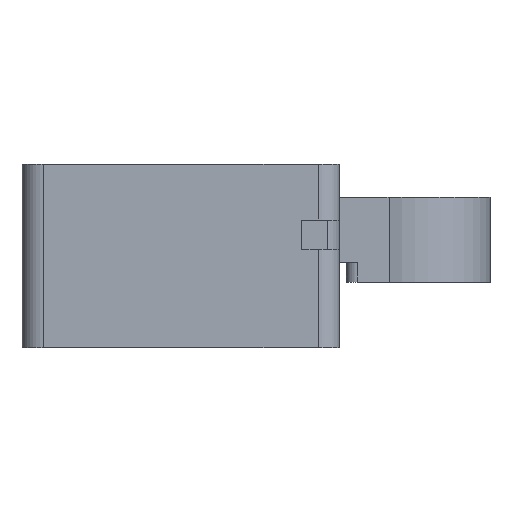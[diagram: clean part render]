
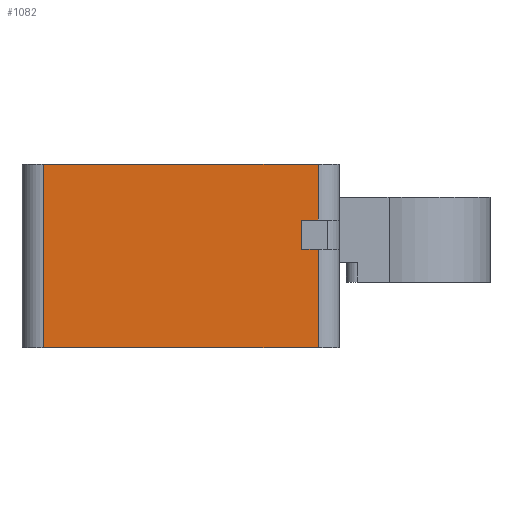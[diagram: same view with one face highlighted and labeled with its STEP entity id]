
A CAD part, front view. The second image highlights one B-rep face of the part: STEP entity #1082.
In plain terms, the highlighted planar face has unit normal (0, -1, 0).
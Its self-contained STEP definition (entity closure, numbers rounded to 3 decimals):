
#115=FACE_OUTER_BOUND('',#171,.T.);
#171=EDGE_LOOP('',(#829,#830,#831,#832,#833,#834,#835,#836));
#212=LINE('',#1560,#324);
#223=LINE('',#1664,#335);
#226=LINE('',#1676,#338);
#264=LINE('',#1901,#376);
#265=LINE('',#1904,#377);
#266=LINE('',#1906,#378);
#267=LINE('',#1908,#379);
#268=LINE('',#1909,#380);
#324=VECTOR('',#1242,1.);
#335=VECTOR('',#1273,1.);
#338=VECTOR('',#1284,1.);
#376=VECTOR('',#1374,1.);
#377=VECTOR('',#1377,1.);
#378=VECTOR('',#1378,1.);
#379=VECTOR('',#1379,1.);
#380=VECTOR('',#1380,1.);
#436=VERTEX_POINT('',#1557);
#437=VERTEX_POINT('',#1559);
#456=VERTEX_POINT('',#1662);
#461=VERTEX_POINT('',#1674);
#490=VERTEX_POINT('',#1899);
#491=VERTEX_POINT('',#1903);
#492=VERTEX_POINT('',#1905);
#493=VERTEX_POINT('',#1907);
#545=EDGE_CURVE('',#436,#437,#212,.T.);
#566=EDGE_CURVE('',#456,#436,#223,.T.);
#572=EDGE_CURVE('',#456,#461,#226,.T.);
#620=EDGE_CURVE('',#490,#437,#264,.T.);
#621=EDGE_CURVE('',#461,#491,#265,.T.);
#622=EDGE_CURVE('',#492,#491,#266,.T.);
#623=EDGE_CURVE('',#493,#492,#267,.T.);
#624=EDGE_CURVE('',#493,#490,#268,.T.);
#829=ORIENTED_EDGE('',*,*,#572,.T.);
#830=ORIENTED_EDGE('',*,*,#621,.T.);
#831=ORIENTED_EDGE('',*,*,#622,.F.);
#832=ORIENTED_EDGE('',*,*,#623,.F.);
#833=ORIENTED_EDGE('',*,*,#624,.T.);
#834=ORIENTED_EDGE('',*,*,#620,.T.);
#835=ORIENTED_EDGE('',*,*,#545,.F.);
#836=ORIENTED_EDGE('',*,*,#566,.F.);
#1039=PLANE('',#1172);
#1082=ADVANCED_FACE('',(#115),#1039,.F.);
#1172=AXIS2_PLACEMENT_3D('',#1902,#1375,#1376);
#1242=DIRECTION('',(1.,0.,0.));
#1273=DIRECTION('',(0.,0.,1.));
#1284=DIRECTION('',(1.,0.,0.));
#1374=DIRECTION('',(0.,0.,1.));
#1375=DIRECTION('center_axis',(0.,1.,0.));
#1376=DIRECTION('ref_axis',(0.,0.,1.));
#1377=DIRECTION('',(0.,0.,1.));
#1378=DIRECTION('',(1.,0.,0.));
#1379=DIRECTION('',(0.,0.,-1.));
#1380=DIRECTION('',(1.,0.,0.));
#1557=CARTESIAN_POINT('',(22.15,25.38,-4.8));
#1559=CARTESIAN_POINT('',(30.55,25.38,-4.8));
#1560=CARTESIAN_POINT('',(21.5,25.38,-4.8));
#1662=CARTESIAN_POINT('',(22.15,25.38,-10.4));
#1664=CARTESIAN_POINT('',(22.15,25.38,-10.4));
#1674=CARTESIAN_POINT('',(30.55,25.38,-10.4));
#1676=CARTESIAN_POINT('',(21.5,25.38,-10.4));
#1899=CARTESIAN_POINT('',(30.55,25.38,-6.5));
#1901=CARTESIAN_POINT('',(30.55,25.38,-10.4));
#1902=CARTESIAN_POINT('Origin',(21.5,25.38,-10.4));
#1903=CARTESIAN_POINT('',(30.55,25.38,-7.4));
#1904=CARTESIAN_POINT('',(30.55,25.38,-10.4));
#1905=CARTESIAN_POINT('',(30.05,25.38,-7.4));
#1906=CARTESIAN_POINT('',(25.775,25.38,-7.4));
#1907=CARTESIAN_POINT('',(30.05,25.38,-6.5));
#1908=CARTESIAN_POINT('',(30.05,25.38,-8.9));
#1909=CARTESIAN_POINT('',(25.775,25.38,-6.5));
